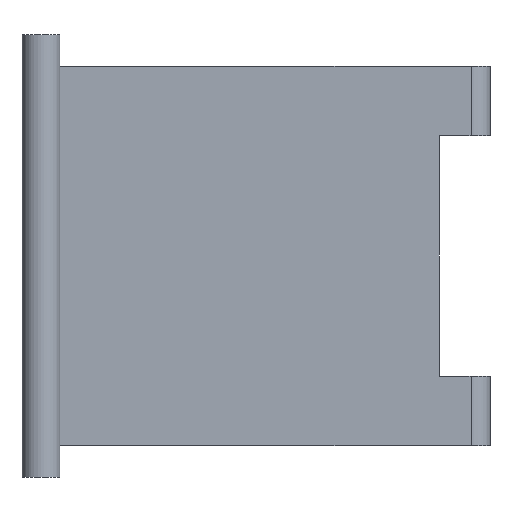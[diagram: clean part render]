
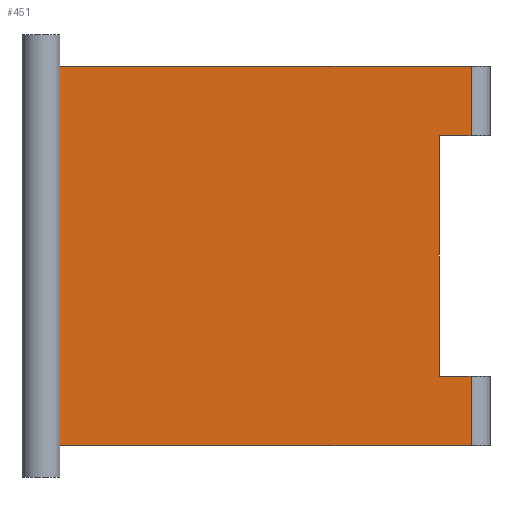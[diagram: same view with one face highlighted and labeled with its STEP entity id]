
A CAD part, left-side view. The second image highlights one B-rep face of the part: STEP entity #451.
In plain terms, the highlighted planar face has unit normal (-1, 0, 0).
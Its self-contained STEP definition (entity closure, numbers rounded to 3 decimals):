
#30 = VECTOR ( 'NONE', #968, 1000. ) ;
#32 = CARTESIAN_POINT ( 'NONE',  ( -190., -15., 150. ) ) ;
#57 = LINE ( 'NONE', #622, #30 ) ;
#75 = EDGE_CURVE ( 'NONE', #975, #713, #176, .T. ) ;
#98 = DIRECTION ( 'NONE',  ( 0., 1., 0. ) ) ;
#118 = CARTESIAN_POINT ( 'NONE',  ( -190., -340., 150. ) ) ;
#131 = CARTESIAN_POINT ( 'NONE',  ( -190., -355., 150. ) ) ;
#167 = VERTEX_POINT ( 'NONE', #681 ) ;
#176 = LINE ( 'NONE', #988, #484 ) ;
#177 = VERTEX_POINT ( 'NONE', #286 ) ;
#213 = ORIENTED_EDGE ( 'NONE', *, *, #283, .T. ) ;
#240 = EDGE_CURVE ( 'NONE', #634, #167, #588, .T. ) ;
#243 = ORIENTED_EDGE ( 'NONE', *, *, #369, .F. ) ;
#246 = CARTESIAN_POINT ( 'NONE',  ( -190., -340., -150. ) ) ;
#254 = CARTESIAN_POINT ( 'NONE',  ( -190., -315., 150. ) ) ;
#271 = CARTESIAN_POINT ( 'NONE',  ( -190., -355., 95. ) ) ;
#276 = CARTESIAN_POINT ( 'NONE',  ( -190., -315., -95. ) ) ;
#282 = CARTESIAN_POINT ( 'NONE',  ( -190., -15., 150. ) ) ;
#283 = EDGE_CURVE ( 'NONE', #573, #975, #508, .T. ) ;
#286 = CARTESIAN_POINT ( 'NONE',  ( -190., -340., 150. ) ) ;
#290 = FACE_OUTER_BOUND ( 'NONE', #465, .T. ) ;
#291 = ORIENTED_EDGE ( 'NONE', *, *, #957, .T. ) ;
#303 = ORIENTED_EDGE ( 'NONE', *, *, #75, .T. ) ;
#307 = ORIENTED_EDGE ( 'NONE', *, *, #811, .T. ) ;
#329 = VECTOR ( 'NONE', #591, 1000. ) ;
#333 = VECTOR ( 'NONE', #1013, 1000. ) ;
#369 = EDGE_CURVE ( 'NONE', #573, #167, #57, .T. ) ;
#375 = PLANE ( 'NONE',  #656 ) ;
#397 = DIRECTION ( 'NONE',  ( 0., 0., 1. ) ) ;
#451 = ADVANCED_FACE ( 'NONE', ( #290 ), #375, .F. ) ;
#454 = DIRECTION ( 'NONE',  ( 1., 0., 0. ) ) ;
#461 = EDGE_CURVE ( 'NONE', #177, #634, #869, .T. ) ;
#465 = EDGE_LOOP ( 'NONE', ( #951, #291, #307, #712, #771, #243, #213, #303 ) ) ;
#475 = CARTESIAN_POINT ( 'NONE',  ( -190., -315., 95. ) ) ;
#482 = LINE ( 'NONE', #976, #672 ) ;
#484 = VECTOR ( 'NONE', #98, 1000. ) ;
#508 = LINE ( 'NONE', #118, #333 ) ;
#512 = CARTESIAN_POINT ( 'NONE',  ( -190., -340., -95. ) ) ;
#535 = DIRECTION ( 'NONE',  ( 0., 0., -1. ) ) ;
#573 = VERTEX_POINT ( 'NONE', #246 ) ;
#576 = DIRECTION ( 'NONE',  ( 0., 0., 1. ) ) ;
#588 = LINE ( 'NONE', #282, #1023 ) ;
#591 = DIRECTION ( 'NONE',  ( 0., -1., 0. ) ) ;
#593 = EDGE_CURVE ( 'NONE', #713, #799, #913, .T. ) ;
#607 = DIRECTION ( 'NONE',  ( 0., 0., -1. ) ) ;
#611 = CARTESIAN_POINT ( 'NONE',  ( -190., -355., 150. ) ) ;
#622 = CARTESIAN_POINT ( 'NONE',  ( -190., -355., -150. ) ) ;
#634 = VERTEX_POINT ( 'NONE', #32 ) ;
#656 = AXIS2_PLACEMENT_3D ( 'NONE', #611, #454, #535 ) ;
#666 = LINE ( 'NONE', #271, #329 ) ;
#672 = VECTOR ( 'NONE', #397, 1000. ) ;
#681 = CARTESIAN_POINT ( 'NONE',  ( -190., -15., -150. ) ) ;
#712 = ORIENTED_EDGE ( 'NONE', *, *, #461, .T. ) ;
#713 = VERTEX_POINT ( 'NONE', #276 ) ;
#740 = CARTESIAN_POINT ( 'NONE',  ( -190., -340., 95. ) ) ;
#771 = ORIENTED_EDGE ( 'NONE', *, *, #240, .T. ) ;
#787 = VECTOR ( 'NONE', #956, 1000. ) ;
#799 = VERTEX_POINT ( 'NONE', #475 ) ;
#811 = EDGE_CURVE ( 'NONE', #1007, #177, #482, .T. ) ;
#846 = VECTOR ( 'NONE', #576, 1000. ) ;
#869 = LINE ( 'NONE', #131, #787 ) ;
#913 = LINE ( 'NONE', #254, #846 ) ;
#951 = ORIENTED_EDGE ( 'NONE', *, *, #593, .T. ) ;
#956 = DIRECTION ( 'NONE',  ( 0., 1., 0. ) ) ;
#957 = EDGE_CURVE ( 'NONE', #799, #1007, #666, .T. ) ;
#968 = DIRECTION ( 'NONE',  ( 0., 1., 0. ) ) ;
#975 = VERTEX_POINT ( 'NONE', #512 ) ;
#976 = CARTESIAN_POINT ( 'NONE',  ( -190., -340., 150. ) ) ;
#988 = CARTESIAN_POINT ( 'NONE',  ( -190., -355., -95. ) ) ;
#1007 = VERTEX_POINT ( 'NONE', #740 ) ;
#1013 = DIRECTION ( 'NONE',  ( 0., 0., 1. ) ) ;
#1023 = VECTOR ( 'NONE', #607, 1000. ) ;
